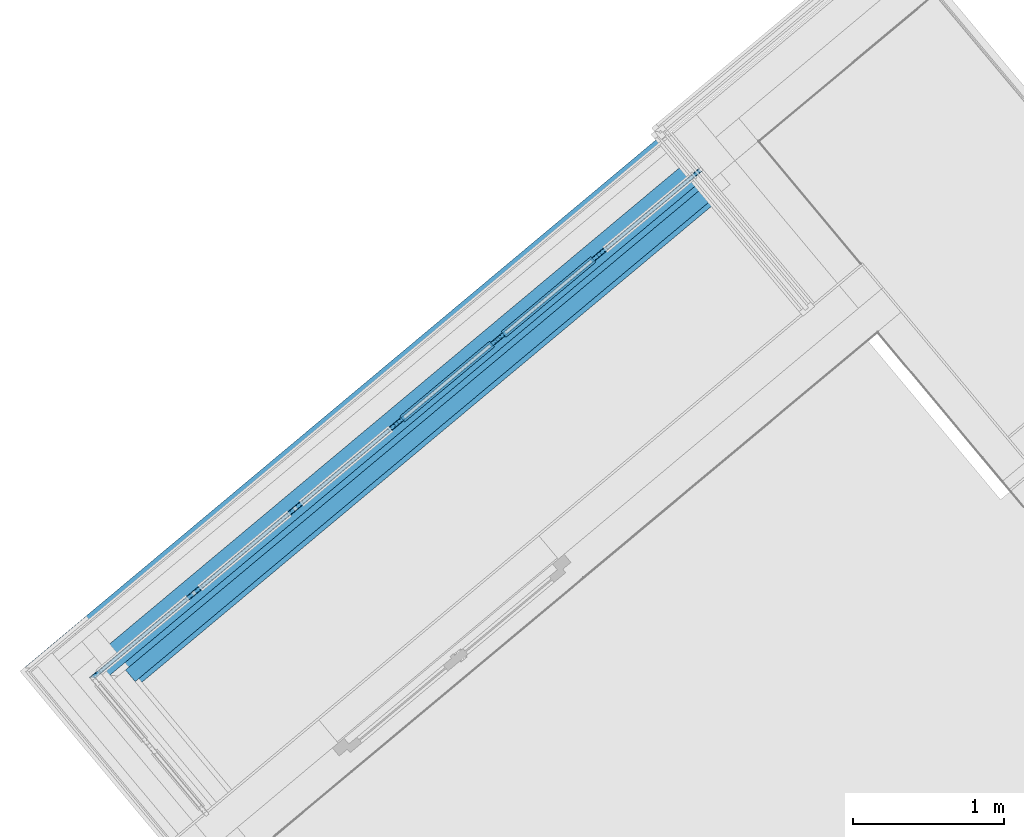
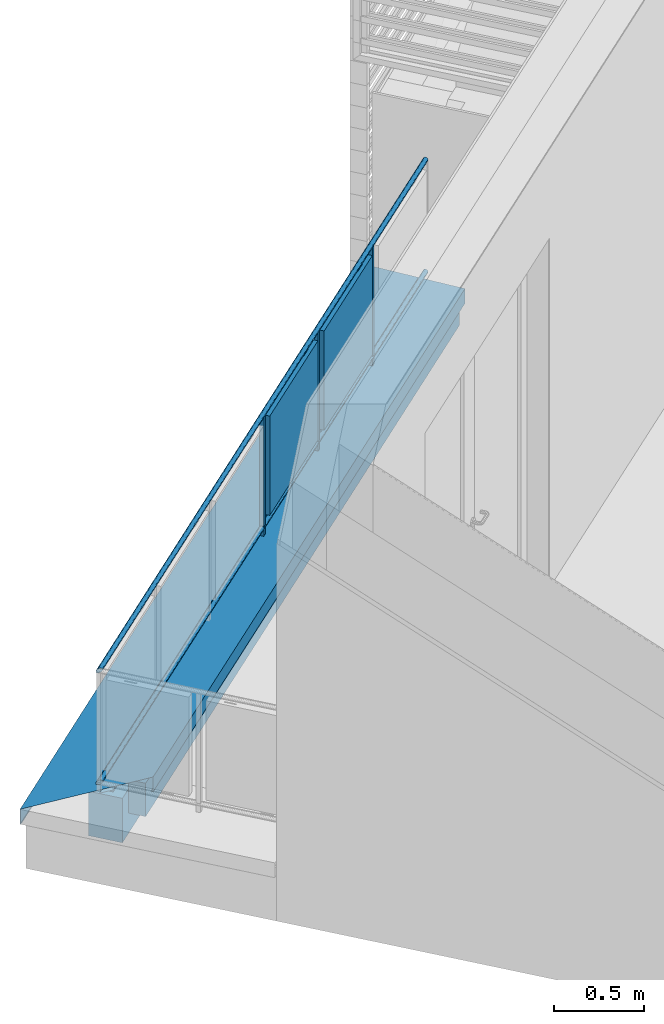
# One storey, part 19 of 47: 11 building element parts, 2 elements without a shape of their own.
"""IFC4 building model written with IfcOpenShell, lengths in metres."""

from ifc_helpers import new_model, entity, si_unit, converted_unit, derived_unit, direction, frame, origin_with_axes, place, context, subcontext, project, spatial, polygons, material, type_object, element, aggregate, save


model = new_model("IFC4")

# Units and contexts
model_context = context("Model", 3, precision=1e-05, world=origin_with_axes(), true_north=direction((0.0, 1.0)))
body_context = subcontext(model_context, "Body", "Model", "MODEL_VIEW")
ifc_project = project(units=[si_unit("LENGTHUNIT", "METRE"), si_unit("AREAUNIT", "SQUARE_METRE"), si_unit("VOLUMEUNIT", "CUBIC_METRE"), converted_unit("PLANEANGLEUNIT", "DEGREE", entity("IfcPlaneAngleMeasure", 0.0174532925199), si_unit("PLANEANGLEUNIT", "RADIAN"), dimensions=[0, 0, 0, 0, 0, 0, 0]), converted_unit("TIMEUNIT", "Year", entity("IfcTimeMeasure", 31556926.0), si_unit("TIMEUNIT", "SECOND"), dimensions=[0, 0, 1, 0, 0, 0, 0]), si_unit("MASSUNIT", "GRAM", prefix="KILO"), si_unit("THERMODYNAMICTEMPERATUREUNIT", "DEGREE_CELSIUS"), si_unit("LUMINOUSINTENSITYUNIT", "LUMEN"), si_unit("ENERGYUNIT", "JOULE", prefix="MEGA"), derived_unit("THERMALCONDUCTANCEUNIT", [(si_unit("POWERUNIT", "WATT"), 1), (si_unit("LENGTHUNIT", "METRE"), -1), (si_unit("THERMODYNAMICTEMPERATUREUNIT", "KELVIN"), -1)]), derived_unit("SPECIFICHEATCAPACITYUNIT", [(si_unit("ENERGYUNIT", "JOULE"), 1), (si_unit("MASSUNIT", "GRAM", prefix="KILO"), -1), (si_unit("THERMODYNAMICTEMPERATUREUNIT", "KELVIN"), -1)]), derived_unit("MASSDENSITYUNIT", [(si_unit("MASSUNIT", "GRAM", prefix="KILO"), 1), (si_unit("VOLUMEUNIT", "CUBIC_METRE"), -1)])], contexts=[model_context])

# Site, building, storey
site_placement = place(None, frame((-0.00153261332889, -0.00661245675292, 0.0), z_axis=(0.0, 0.0, 1.0), x_axis=(1.0, 0.0, 0.0)))
site = spatial("IfcSite", under=ifc_project, at=site_placement, Name="Site", CompositionType="ELEMENT")
building_placement = place(site_placement, origin_with_axes())
building = spatial("IfcBuilding", under=site, at=building_placement, Name="Building", CompositionType="ELEMENT")
storey_placement = place(building_placement, frame((0.0, 0.0, 8.66), z_axis=(0.0, 0.0, 1.0), x_axis=(1.0, 0.0, 0.0)))
storey = spatial("IfcBuildingStorey", under=building, at=storey_placement, Name="DG2", CompositionType="ELEMENT", Elevation=8.66)

# Wall, building element parts
wall_type = type_object("IfcWallType", Name="Bauteil - Attika Terrasse 1.DG 574 x 410", PredefinedType="NOTDEFINED")
wall_placement = place(storey_placement, frame((-8.38023068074, 18.991205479, -0.2), z_axis=(0.0, 0.0, 1.0), x_axis=(0.767365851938, 0.641209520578, 0.0)))
wall = element("IfcWall", 1, at=wall_placement, inside=storey, type_object=wall_type, Name="Wand-005", PredefinedType="NOTDEFINED")
ifc_material_1 = material(Name="Stahlbeton")
building_element_part_1_placement = place(wall_placement, origin_with_axes())
building_element_part_1 = element("IfcBuildingElementPart", 2, at=building_element_part_1_placement, material=ifc_material_1, Name="Stahlbeton", PredefinedType="NOTDEFINED", context=body_context, shape_type="Tessellation", body=[
    polygons([(0.199999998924, -1.8283543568e-09, 0.500000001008), (0.199999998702, -0.199999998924, 0.500000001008), (5.34520574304, -0.199999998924, 0.500000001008), (5.34520574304, -1.8283543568e-09, 0.500000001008), (0.199999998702, -0.199999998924, 0.498822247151), (0.199999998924, -1.8283543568e-09, 0.498822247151), (0.199999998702, -0.199999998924, 0.49100648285), (0.199999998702, -0.199999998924, 0.488695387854), (0.199999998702, -0.199999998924, 0.335), (5.34520574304, -0.199999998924, 0.335000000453), (5.34520574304, -0.199999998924, 0.2), (5.34520574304, -1.8283543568e-09, 0.2), (0.199999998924, -1.8283543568e-09, 0.2), (0.199999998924, -1.8283543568e-09, 0.335), (0.199999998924, -1.8283543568e-09, 0.488695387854), (0.199999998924, -1.8283543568e-09, 0.49100648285), (0.199999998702, -0.199999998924, 0.2)], [[[1, 2, 3, 4]], [[5, 2, 1, 6]], [[2, 5, 7, 8, 9, 10, 3]], [[11, 12, 4, 3, 10]], [[6, 1, 4, 12, 13, 14, 15, 16]], [[5, 6, 16, 7]], [[7, 16, 15, 8]], [[8, 15, 14, 9]], [[9, 17, 11, 10]], [[17, 13, 12, 11]], [[9, 14, 13, 17]]], closed=True),
])
ifc_material_2 = material(Name="Vollholz")
building_element_part_2_placement = place(wall_placement, origin_with_axes())
building_element_part_2 = element("IfcBuildingElementPart", 3, at=building_element_part_2_placement, material=ifc_material_2, Name="Vollholz", PredefinedType="NOTDEFINED", context=body_context, shape_type="Tessellation", body=[
    polygons([(0.0999999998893, -0.1, 0.575979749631), (0.16011022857, -0.160110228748, 0.573880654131), (5.34520574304, -0.160110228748, 0.573880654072), (5.34520574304, -0.1, 0.575979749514), (0.160110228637, -0.1, 0.573880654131), (0.160063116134, -0.160063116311, 0.567947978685), (0.159999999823, -0.16, 0.560000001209), (5.34520574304, -0.16, 0.560000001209), (5.34520574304, -0.1, 0.560000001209), (0.159999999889, -0.1, 0.560000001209), (0.1600631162, -0.1, 0.567947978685)], [[[1, 2, 3, 4]], [[5, 2, 1]], [[2, 6, 7, 8, 3]], [[3, 8, 9, 4]], [[5, 1, 4, 9, 10, 11]], [[2, 5, 11, 6]], [[6, 11, 10, 7]], [[7, 10, 9, 8]]], closed=True),
])
ifc_material_3 = material(Name="EPS 1")
building_element_part_3_placement = place(wall_placement, origin_with_axes())
building_element_part_3 = element("IfcBuildingElementPart", 4, at=building_element_part_3_placement, material=ifc_material_3, Name="EPS 1", PredefinedType="NOTDEFINED", context=body_context, shape_type="Tessellation", body=[
    polygons([(0.299999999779, -0.2, 0.560000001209), (0.299999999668, -0.3, 0.560000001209), (5.34520574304, -0.3, 0.560000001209), (5.34520574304, -0.2, 0.560000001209), (0.299999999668, -0.3, 0.519224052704), (0.299999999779, -0.2, 0.519224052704), (0.299999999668, -0.3, 0.511361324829), (0.299999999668, -0.3, 0.50905023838), (0.299999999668, -0.3, 0.499999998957), (0.299999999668, -0.3, 0.498822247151), (0.299999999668, -0.3, 0.49100648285), (0.299999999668, -0.3, 0.488695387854), (0.299999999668, -0.3, 0.335), (5.34520574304, -0.3, 0.335), (5.34520574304, -0.2, 0.335), (0.299999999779, -0.2, 0.335), (0.299999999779, -0.2, 0.488695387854), (0.299999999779, -0.2, 0.49100648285), (0.299999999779, -0.2, 0.498822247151), (0.299999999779, -0.2, 0.499999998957), (0.299999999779, -0.2, 0.50905023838), (0.299999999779, -0.2, 0.511361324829)], [[[1, 2, 3, 4]], [[5, 2, 1, 6]], [[2, 5, 7, 8, 9, 10, 11, 12, 13, 14, 3]], [[14, 15, 4, 3]], [[6, 1, 4, 15, 16, 17, 18, 19, 20, 21, 22]], [[5, 6, 22, 7]], [[7, 22, 21, 8]], [[8, 21, 20, 9]], [[9, 20, 19, 10]], [[10, 19, 18, 11]], [[11, 18, 17, 12]], [[12, 17, 16, 13]], [[13, 16, 15, 14]]], closed=True),
])
ifc_material_4 = material(Name="Stahl")
building_element_part_4_placement = place(wall_placement, origin_with_axes())
building_element_part_4 = element("IfcBuildingElementPart", 5, at=building_element_part_4_placement, material=ifc_material_4, Name="Stahl", PredefinedType="NOTDEFINED", context=body_context, shape_type="Tessellation", body=[
    polygons([(-0.240542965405, 0.240542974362, 0.50905023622), (-0.238231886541, 0.238231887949, 0.51136132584), (-0.238231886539, 0.240146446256, 0.511361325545), (-0.238231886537, 0.241500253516, 0.511361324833), (-0.239585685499, 0.241500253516, 0.510007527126), (5.34520574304, 0.240542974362, 0.509050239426), (5.34520574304, 0.231373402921, 0.518219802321), (-0.231373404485, 0.231373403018, 0.518219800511), (-0.231373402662, 0.233287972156, 0.518219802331), (-0.240146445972, 0.240146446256, 0.51136132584), (-0.24014644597, 0.241500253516, 0.511361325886), (-0.240151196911, 0.241500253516, 0.584015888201), (-0.240151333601, 0.241500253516, 0.586106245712), (-0.240151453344, 0.241500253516, 0.587937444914), (-0.240152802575, 0.241500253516, 0.608570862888), (-0.240152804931, 0.241500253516, 0.608602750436), (-0.202730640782, 0.241500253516, 0.608602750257), (-0.241500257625, 0.241500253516, 0.610006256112), (5.34520574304, 0.241500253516, 0.610006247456), (5.34520574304, 0.241500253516, 0.510007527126), (-0.240146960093, 0.241500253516, 0.519224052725), (-0.240149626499, 0.241500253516, 0.559999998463), (-0.240150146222, 0.241500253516, 0.567947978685), (-0.240150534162, 0.241500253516, 0.573880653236), (-0.240150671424, 0.241500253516, 0.575979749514), (5.34520574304, -0.332051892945, 0.489652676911), (5.34520574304, -0.331094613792, 0.488695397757), (5.34520574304, -0.321878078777, 0.497911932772), (5.34520574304, -0.32288233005, 0.498822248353), (5.34520574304, -0.330698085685, 0.491006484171), (5.34520574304, -0.330698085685, 0.587937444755), (5.34520574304, 0.239276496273, 0.608570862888), (5.34520574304, 0.240152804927, 0.608602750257), (5.34520574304, 0.240146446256, 0.51136132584), (5.34520574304, 0.232283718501, 0.519224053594), (5.34520574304, -0.332051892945, 0.589243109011), (-0.232283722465, 0.232283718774, 0.519224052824), (-0.240146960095, 0.240146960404, 0.519224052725), (-0.240150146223, 0.240150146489, 0.567947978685), (-0.2401496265, 0.240149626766, 0.559999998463), (-0.202730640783, 0.240152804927, 0.608602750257), (-0.240152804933, 0.240152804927, 0.608602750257), (-0.240152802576, 0.240152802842, 0.608570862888), (-0.240151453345, 0.240151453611, 0.587937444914), (-0.240151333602, 0.240151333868, 0.586106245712), (-0.240151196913, 0.240151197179, 0.584015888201), (-0.240150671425, 0.240150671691, 0.575979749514), (-0.240150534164, 0.24015053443, 0.573880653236), (-0.202730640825, 0.202730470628, 0.608602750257), (-0.201849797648, 0.201849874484, 0.608570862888), (0.332051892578, -0.332051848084, 0.589243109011), (0.332051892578, -0.332051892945, 0.489652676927), (0.331094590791, -0.331094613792, 0.488695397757), (0.33205189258, -0.330137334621, 0.489652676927), (0.332051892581, -0.328783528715, 0.491006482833), (0.330698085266, -0.328783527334, 0.491006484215), (0.323792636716, -0.321878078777, 0.497911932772), (0.322882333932, -0.32288233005, 0.498822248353), (0.330698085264, -0.330698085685, 0.491006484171), (0.332051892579, -0.330698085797, 0.49100648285), (0.332051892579, -0.330698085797, 0.498822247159), (0.332051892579, -0.330698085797, 0.499999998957), (0.332051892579, -0.330698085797, 0.50905024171), (0.332051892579, -0.330698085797, 0.511361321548), (0.332051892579, -0.330698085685, 0.519224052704), (0.332051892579, -0.330698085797, 0.559999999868), (0.332051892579, -0.330698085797, 0.567947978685), (0.332051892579, -0.330698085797, 0.573880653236), (0.332051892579, -0.330698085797, 0.575979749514), (0.332051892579, -0.330698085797, 0.584015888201), (0.332051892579, -0.330698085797, 0.586106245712), (0.33205189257, -0.330697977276, 0.587937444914), (0.332051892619, -0.294630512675, 0.589243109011), (-0.201849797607, 0.239276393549, 0.608570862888), (0.332051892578, -0.332051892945, 0.498822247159), (0.332051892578, -0.332051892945, 0.49100648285), (0.332051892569, -0.332051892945, 0.587937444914), (0.332051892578, -0.332051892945, 0.586106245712), (0.332051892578, -0.332051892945, 0.584015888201), (0.332051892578, -0.332051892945, 0.575979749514), (0.332051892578, -0.332051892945, 0.573880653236), (0.332051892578, -0.332051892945, 0.567947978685), (0.332051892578, -0.332051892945, 0.559999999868), (0.332051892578, -0.332051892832, 0.519224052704), (0.332051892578, -0.332051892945, 0.511361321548), (0.332051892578, -0.332051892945, 0.50905024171), (0.332051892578, -0.332051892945, 0.499999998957)], [[[1, 2, 3, 4, 5]], [[2, 1, 6, 7, 8]], [[2, 8, 9, 3]], [[10, 11, 4, 3]], [[12, 13, 14, 15, 16, 17, 18, 19, 20, 5, 4, 11, 21, 22, 23, 24, 25]], [[1, 5, 20, 6]], [[26, 27, 28, 29, 30, 31, 32, 33, 34, 35, 7, 6, 20, 19, 36]], [[37, 8, 7, 35]], [[37, 9, 8]], [[9, 37, 35, 34, 3]], [[10, 38, 21, 11]], [[39, 40, 38, 10, 3, 34, 33, 41, 42, 43, 44, 45, 46, 47, 48]], [[12, 46, 45, 13]], [[44, 14, 13, 45]], [[14, 44, 43, 15]], [[15, 43, 42, 16]], [[16, 42, 41, 17]], [[41, 49, 18, 17]], [[50, 51, 36, 19, 18, 49]], [[38, 40, 22, 21]], [[40, 39, 23, 22]], [[39, 48, 24, 23]], [[48, 47, 25, 24]], [[46, 12, 25, 47]], [[52, 53, 27, 26]], [[54, 55, 56, 57, 28, 27, 53]], [[57, 58, 29, 28]], [[59, 60, 30, 29, 58]], [[60, 61, 62, 63, 64, 65, 66, 67, 68, 69, 70, 71, 72, 31, 30]], [[73, 74, 32, 31, 72]], [[74, 41, 33, 32]], [[75, 76, 52, 26, 36, 51, 77, 78, 79, 80, 81, 82, 83, 84, 85, 86, 87]], [[49, 41, 74, 50]], [[74, 73, 51, 50]], [[53, 52, 54]], [[76, 60, 55, 54, 52]], [[60, 59, 56, 55]], [[58, 57, 56, 59]], [[60, 76, 75, 61]], [[61, 75, 87, 62]], [[87, 86, 63, 62]], [[86, 85, 64, 63]], [[85, 84, 65, 64]], [[84, 83, 66, 65]], [[83, 82, 67, 66]], [[82, 81, 68, 67]], [[81, 80, 69, 68]], [[80, 79, 70, 69]], [[79, 78, 71, 70]], [[78, 77, 72, 71]], [[77, 51, 73, 72]]], closed=True),
])
aggregate(wall, [building_element_part_1, building_element_part_2, building_element_part_3, building_element_part_4])

# Railing, building element parts
railing_type = type_object("IfcRailingType", Name="Geländerart", PredefinedType="NOTDEFINED")
railing_placement = place(storey_placement, frame((-7.40951182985, 18.1414107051, 0.38), z_axis=(0.0, 0.0, 1.0), x_axis=(1.0, 0.0, 0.0)))
railing = element("IfcRailing", 6, at=railing_placement, inside=storey, type_object=railing_type, Name="Geländer - 001", PredefinedType="NOTDEFINED")
ifc_material_5 = material(Name="Aluminium")
building_element_part_5_placement = place(railing_placement, origin_with_axes())
building_element_part_5 = element("IfcBuildingElementPart", 7, at=building_element_part_5_placement, material=ifc_material_5, Name="Aluminium", PredefinedType="NOTDEFINED", context=body_context, shape_type="Tessellation", body=[
    polygons([(-0.850989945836, 0.83907148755, 0.825), (-0.850668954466, 0.839042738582, 0.827604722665), (3.18565834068, 4.2117907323, 0.827604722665), (3.18551221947, 4.21196560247, 0.825), (-0.850668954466, 0.839042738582, 0.822395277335), (-0.849715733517, 0.838957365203, 0.81986969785), (-0.848159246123, 0.838817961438, 0.8175), (-0.846046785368, 0.838628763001, 0.815358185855), (-0.843442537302, 0.838395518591, 0.813509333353), (-0.840425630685, 0.83812531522, 0.812009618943), (-0.837087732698, 0.837826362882, 0.810904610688), (-0.833530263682, 0.837507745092, 0.810227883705), (-0.829861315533, 0.837179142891, 0.81), (-0.826192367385, 0.836850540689, 0.810227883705), (-0.822634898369, 0.836531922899, 0.810904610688), (-0.819297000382, 0.836232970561, 0.812009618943), (-0.816280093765, 0.835962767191, 0.813509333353), (-0.813675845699, 0.83572952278, 0.815358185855), (-0.811563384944, 0.835540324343, 0.8175), (-0.81000689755, 0.835400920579, 0.81986969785), (-0.8090536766, 0.835315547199, 0.822395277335), (-0.80873268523, 0.835286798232, 0.825), (-0.8090536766, 0.835315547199, 0.827604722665), (-0.81000689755, 0.835400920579, 0.83013030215), (-0.811563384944, 0.835540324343, 0.8325), (-0.813675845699, 0.83572952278, 0.834641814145), (-0.816280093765, 0.835962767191, 0.836490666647), (-0.819297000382, 0.836232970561, 0.837990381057), (-0.822634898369, 0.836531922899, 0.839095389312), (-0.826192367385, 0.836850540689, 0.839772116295), (-0.829861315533, 0.837179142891, 0.84), (-0.833530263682, 0.837507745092, 0.839772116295), (-0.837087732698, 0.837826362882, 0.839095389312), (-0.840425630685, 0.83812531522, 0.837990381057), (-0.843442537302, 0.838395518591, 0.836490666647), (-0.846046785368, 0.838628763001, 0.834641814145), (-0.848159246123, 0.838817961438, 0.8325), (-0.849715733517, 0.838957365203, 0.83013030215), (3.18609226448, 4.21127143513, 0.83013030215), (3.18680080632, 4.21042348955, 0.8325), (3.18776243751, 4.20927265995, 0.834641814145), (3.18894793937, 4.20785391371, 0.836490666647), (3.19032129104, 4.20621035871, 0.837990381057), (3.19184076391, 4.20439193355, 0.839095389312), (3.19346018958, 4.20245389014, 0.839772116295), (3.1951303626, 4.20045511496, 0.84), (3.19680053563, 4.19845633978, 0.839772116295), (3.1984199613, 4.19651829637, 0.839095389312), (3.19993943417, 4.1946998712, 0.837990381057), (3.20131278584, 4.19305631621, 0.836490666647), (3.2024982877, 4.19163756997, 0.834641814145), (3.20345991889, 4.19048674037, 0.8325), (3.20416846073, 4.18963879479, 0.83013030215), (3.20460238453, 4.18911949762, 0.827604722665), (3.20474850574, 4.18894462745, 0.825), (3.20460238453, 4.18911949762, 0.822395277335), (3.20416846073, 4.18963879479, 0.81986969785), (3.20345991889, 4.19048674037, 0.8175), (3.2024982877, 4.19163756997, 0.815358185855), (3.20131278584, 4.19305631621, 0.813509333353), (3.19993943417, 4.1946998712, 0.812009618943), (3.1984199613, 4.19651829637, 0.810904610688), (3.19680053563, 4.19845633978, 0.810227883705), (3.1951303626, 4.20045511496, 0.81), (3.19346018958, 4.20245389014, 0.810227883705), (3.19184076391, 4.20439193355, 0.810904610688), (3.19032129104, 4.20621035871, 0.812009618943), (3.18894793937, 4.20785391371, 0.813509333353), (3.18776243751, 4.20927265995, 0.815358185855), (3.18680080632, 4.21042348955, 0.8175), (3.18609226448, 4.21127143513, 0.81986969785), (3.18565834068, 4.2117907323, 0.822395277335)], [[[1, 2, 3, 4]], [[1, 5, 6, 7, 8, 9, 10, 11, 12, 13, 14, 15, 16, 17, 18, 19, 20, 21, 22, 23, 24, 25, 26, 27, 28, 29, 30, 31, 32, 33, 34, 35, 36, 37, 38, 2]], [[2, 38, 39, 3]], [[4, 3, 39, 40, 41, 42, 43, 44, 45, 46, 47, 48, 49, 50, 51, 52, 53, 54, 55, 56, 57, 58, 59, 60, 61, 62, 63, 64, 65, 66, 67, 68, 69, 70, 71, 72]], [[5, 1, 4, 72]], [[6, 5, 72, 71]], [[7, 6, 71, 70]], [[8, 7, 70, 69]], [[9, 8, 69, 68]], [[10, 9, 68, 67]], [[11, 10, 67, 66]], [[12, 11, 66, 65]], [[13, 12, 65, 64]], [[14, 13, 64, 63]], [[15, 14, 63, 62]], [[16, 15, 62, 61]], [[17, 16, 61, 60]], [[18, 17, 60, 59]], [[19, 18, 59, 58]], [[20, 19, 58, 57]], [[21, 20, 57, 56]], [[22, 21, 56, 55]], [[23, 22, 55, 54]], [[24, 23, 54, 53]], [[25, 24, 53, 52]], [[26, 25, 52, 51]], [[27, 26, 51, 50]], [[28, 27, 50, 49]], [[29, 28, 49, 48]], [[30, 29, 48, 47]], [[31, 30, 47, 46]], [[32, 31, 46, 45]], [[33, 32, 45, 44]], [[34, 33, 44, 43]], [[35, 34, 43, 42]], [[36, 35, 42, 41]], [[37, 36, 41, 40]], [[38, 37, 40, 39]]], closed=True),
])
building_element_part_6_placement = place(railing_placement, origin_with_axes())
building_element_part_6 = element("IfcBuildingElementPart", 8, at=building_element_part_6_placement, material=ifc_material_5, Name="Aluminium", PredefinedType="NOTDEFINED", context=body_context, shape_type="Tessellation", body=[
    polygons([(-0.850989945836, 0.83907148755, 0.07), (-0.850668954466, 0.839042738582, 0.072604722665), (3.18565834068, 4.2117907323, 0.072604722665), (3.18551221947, 4.21196560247, 0.07), (-0.850668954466, 0.839042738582, 0.067395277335), (-0.849715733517, 0.838957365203, 0.0648696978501), (-0.848159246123, 0.838817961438, 0.0625), (-0.846046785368, 0.838628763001, 0.0603581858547), (-0.843442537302, 0.838395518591, 0.0585093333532), (-0.840425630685, 0.83812531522, 0.0570096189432), (-0.837087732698, 0.837826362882, 0.0559046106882), (-0.833530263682, 0.837507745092, 0.0552278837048), (-0.829861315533, 0.837179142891, 0.055), (-0.826192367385, 0.836850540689, 0.0552278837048), (-0.822634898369, 0.836531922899, 0.0559046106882), (-0.819297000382, 0.836232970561, 0.0570096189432), (-0.816280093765, 0.835962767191, 0.0585093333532), (-0.813675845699, 0.83572952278, 0.0603581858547), (-0.811563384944, 0.835540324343, 0.0625), (-0.81000689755, 0.835400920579, 0.0648696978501), (-0.8090536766, 0.835315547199, 0.067395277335), (-0.80873268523, 0.835286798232, 0.07), (-0.8090536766, 0.835315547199, 0.072604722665), (-0.81000689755, 0.835400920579, 0.0751303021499), (-0.811563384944, 0.835540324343, 0.0775), (-0.813675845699, 0.83572952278, 0.0796418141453), (-0.816280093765, 0.835962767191, 0.0814906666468), (-0.819297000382, 0.836232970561, 0.0829903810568), (-0.822634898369, 0.836531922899, 0.0840953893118), (-0.826192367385, 0.836850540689, 0.0847721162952), (-0.829861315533, 0.837179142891, 0.085), (-0.833530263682, 0.837507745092, 0.0847721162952), (-0.837087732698, 0.837826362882, 0.0840953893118), (-0.840425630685, 0.83812531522, 0.0829903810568), (-0.843442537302, 0.838395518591, 0.0814906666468), (-0.846046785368, 0.838628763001, 0.0796418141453), (-0.848159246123, 0.838817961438, 0.0775), (-0.849715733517, 0.838957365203, 0.0751303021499), (3.18609226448, 4.21127143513, 0.0751303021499), (3.18680080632, 4.21042348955, 0.0775), (3.18776243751, 4.20927265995, 0.0796418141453), (3.18894793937, 4.20785391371, 0.0814906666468), (3.19032129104, 4.20621035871, 0.0829903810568), (3.19184076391, 4.20439193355, 0.0840953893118), (3.19346018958, 4.20245389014, 0.0847721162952), (3.1951303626, 4.20045511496, 0.085), (3.19680053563, 4.19845633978, 0.0847721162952), (3.1984199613, 4.19651829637, 0.0840953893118), (3.19993943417, 4.1946998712, 0.0829903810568), (3.20131278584, 4.19305631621, 0.0814906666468), (3.2024982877, 4.19163756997, 0.0796418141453), (3.20345991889, 4.19048674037, 0.0775), (3.20416846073, 4.18963879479, 0.0751303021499), (3.20460238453, 4.18911949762, 0.072604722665), (3.20474850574, 4.18894462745, 0.07), (3.20460238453, 4.18911949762, 0.067395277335), (3.20416846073, 4.18963879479, 0.0648696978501), (3.20345991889, 4.19048674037, 0.0625), (3.2024982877, 4.19163756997, 0.0603581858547), (3.20131278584, 4.19305631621, 0.0585093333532), (3.19993943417, 4.1946998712, 0.0570096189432), (3.1984199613, 4.19651829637, 0.0559046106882), (3.19680053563, 4.19845633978, 0.0552278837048), (3.1951303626, 4.20045511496, 0.055), (3.19346018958, 4.20245389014, 0.0552278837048), (3.19184076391, 4.20439193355, 0.0559046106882), (3.19032129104, 4.20621035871, 0.0570096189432), (3.18894793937, 4.20785391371, 0.0585093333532), (3.18776243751, 4.20927265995, 0.0603581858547), (3.18680080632, 4.21042348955, 0.0625), (3.18609226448, 4.21127143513, 0.0648696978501), (3.18565834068, 4.2117907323, 0.067395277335)], [[[1, 2, 3, 4]], [[1, 5, 6, 7, 8, 9, 10, 11, 12, 13, 14, 15, 16, 17, 18, 19, 20, 21, 22, 23, 24, 25, 26, 27, 28, 29, 30, 31, 32, 33, 34, 35, 36, 37, 38, 2]], [[2, 38, 39, 3]], [[4, 3, 39, 40, 41, 42, 43, 44, 45, 46, 47, 48, 49, 50, 51, 52, 53, 54, 55, 56, 57, 58, 59, 60, 61, 62, 63, 64, 65, 66, 67, 68, 69, 70, 71, 72]], [[5, 1, 4, 72]], [[6, 5, 72, 71]], [[7, 6, 71, 70]], [[8, 7, 70, 69]], [[9, 8, 69, 68]], [[10, 9, 68, 67]], [[11, 10, 67, 66]], [[12, 11, 66, 65]], [[13, 12, 65, 64]], [[14, 13, 64, 63]], [[15, 14, 63, 62]], [[16, 15, 62, 61]], [[17, 16, 61, 60]], [[18, 17, 60, 59]], [[19, 18, 59, 58]], [[20, 19, 58, 57]], [[21, 20, 57, 56]], [[22, 21, 56, 55]], [[23, 22, 55, 54]], [[24, 23, 54, 53]], [[25, 24, 53, 52]], [[26, 25, 52, 51]], [[27, 26, 51, 50]], [[28, 27, 50, 49]], [[29, 28, 49, 48]], [[30, 29, 48, 47]], [[31, 30, 47, 46]], [[32, 31, 46, 45]], [[33, 32, 45, 44]], [[34, 33, 44, 43]], [[35, 34, 43, 42]], [[36, 35, 42, 41]], [[37, 36, 41, 40]], [[38, 37, 40, 39]]], closed=True),
])
building_element_part_7_placement = place(railing_placement, origin_with_axes())
building_element_part_7 = element("IfcBuildingElementPart", 9, at=building_element_part_7_placement, material=ifc_material_5, Name="Aluminium", PredefinedType="NOTDEFINED", context=body_context, shape_type="Tessellation", body=[
    polygons([(1.20024171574, 2.51724017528, -0.3), (1.18421147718, 2.53642432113, -0.3), (1.18421147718, 2.53642432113, 0.82), (1.20024171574, 2.51724017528, 0.82), (1.18105756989, 2.50120993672, -0.3), (1.16502733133, 2.52039408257, -0.3), (1.16502733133, 2.52039408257, 0.82), (1.18105756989, 2.50120993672, 0.82)], [[[1, 2, 3, 4]], [[1, 5, 6, 2]], [[2, 6, 7, 3]], [[4, 3, 7, 8]], [[5, 1, 4, 8]], [[6, 5, 8, 7]]], closed=True),
])
building_element_part_8_placement = place(railing_placement, origin_with_axes())
building_element_part_8 = element("IfcBuildingElementPart", 10, at=building_element_part_8_placement, material=ifc_material_5, Name="Aluminium", PredefinedType="NOTDEFINED", context=body_context, shape_type="Tessellation", body=[
    polygons([(1.29613637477, 2.61691697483, 0.12), (1.34985198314, 2.66180164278, 0.12), (1.34985198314, 2.66180164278, 0.095), (1.29613637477, 2.61691697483, 0.095), (1.29934242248, 2.61308014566, 0.12), (1.35305803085, 2.65796481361, 0.12), (1.35305803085, 2.65796481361, 0.095), (1.29934242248, 2.61308014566, 0.095)], [[[1, 2, 3, 4]], [[5, 6, 2, 1]], [[2, 6, 7, 3]], [[4, 3, 7, 8]], [[1, 4, 8, 5]], [[8, 7, 6, 5]]], closed=True),
    polygons([(1.73675857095, 2.98510010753, 0.79), (1.68304296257, 2.94021543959, 0.79), (1.68304296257, 2.94021543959, 0.795), (1.73675857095, 2.98510010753, 0.795), (1.73996461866, 2.98126327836, 0.79), (1.68624901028, 2.93637861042, 0.79), (1.68624901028, 2.93637861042, 0.795), (1.73996461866, 2.98126327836, 0.795)], [[[1, 2, 3, 4]], [[5, 6, 2, 1]], [[2, 6, 7, 3]], [[4, 3, 7, 8]], [[1, 4, 8, 5]], [[8, 7, 6, 5]]], closed=True),
    polygons([(1.23703305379, 2.53169346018, 0.12), (1.20497257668, 2.57006175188, 0.12), (1.79906793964, 3.06648679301, 0.12), (1.83112841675, 3.02811850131, 0.12), (1.25238037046, 2.54451765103, 0.14), (1.24276222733, 2.55602813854, 0.14), (1.23892539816, 2.55282209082, 0.135), (1.22610120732, 2.5681694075, 0.135), (1.22993803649, 2.57137545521, 0.14), (1.22031989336, 2.58288594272, 0.14), (1.78372062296, 3.05366260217, 0.14), (1.78372062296, 3.05366260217, 0.77), (1.22031989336, 2.58288594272, 0.77), (1.22031989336, 2.58288594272, 0.14), (1.20497257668, 2.57006175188, 0.12), (1.20497257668, 2.57006175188, 0.79), (1.79906793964, 3.06648679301, 0.79), (1.83112841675, 3.02811850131, 0.79), (1.23703305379, 2.53169346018, 0.79), (1.23703305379, 2.53169346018, 0.12), (1.25238037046, 2.54451765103, 0.14), (1.25238037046, 2.54451765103, 0.77), (1.81578110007, 3.01529431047, 0.77), (1.81578110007, 3.01529431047, 0.14), (1.80616295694, 3.02680479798, 0.14), (1.80616295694, 3.02680479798, 0.77), (1.24276222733, 2.55602813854, 0.77), (1.24276222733, 2.55602813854, 0.14), (1.23892539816, 2.55282209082, 0.135), (1.23892539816, 2.55282209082, 0.775), (1.80999978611, 3.03001084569, 0.775), (1.80999978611, 3.03001084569, 0.135), (1.79717559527, 3.04535816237, 0.135), (1.79717559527, 3.04535816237, 0.775), (1.22610120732, 2.5681694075, 0.775), (1.22610120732, 2.5681694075, 0.135), (1.22993803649, 2.57137545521, 0.14), (1.22993803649, 2.57137545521, 0.77), (1.7933387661, 3.04215211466, 0.77), (1.7933387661, 3.04215211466, 0.14)], [[[1, 2, 3, 4]], [[1, 5, 6, 7, 8, 9, 10, 2]], [[2, 10, 11, 12, 13, 14, 15, 16, 17, 3]], [[4, 3, 17, 18]], [[5, 1, 4, 18, 19, 20, 21, 22, 23, 24]], [[6, 5, 24, 25]], [[7, 6, 25, 26, 27, 28, 29, 30, 31, 32]], [[8, 7, 32, 33]], [[9, 8, 33, 34, 35, 36, 37, 38, 39, 40]], [[10, 9, 40, 11]], [[11, 40, 39, 12]], [[12, 39, 38, 13]], [[13, 38, 37, 14]], [[20, 15, 14, 37, 36, 29, 28, 21]], [[19, 16, 15, 20]], [[18, 17, 16, 19]], [[27, 22, 21, 28]], [[26, 23, 22, 27]], [[25, 24, 23, 26]], [[35, 30, 29, 36]], [[34, 31, 30, 35]], [[33, 32, 31, 34]]], closed=True),
])
building_element_part_9_placement = place(railing_placement, origin_with_axes())
building_element_part_9 = element("IfcBuildingElementPart", 11, at=building_element_part_9_placement, material=ifc_material_5, Name="Aluminium", PredefinedType="NOTDEFINED", context=body_context, shape_type="Tessellation", body=[
    polygons([(1.87107366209, 3.07778617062, -0.3), (1.85504342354, 3.09697031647, -0.3), (1.85504342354, 3.09697031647, 0.82), (1.87107366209, 3.07778617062, 0.82), (1.85188951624, 3.06175593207, -0.3), (1.83585927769, 3.08094007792, -0.3), (1.83585927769, 3.08094007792, 0.82), (1.85188951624, 3.06175593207, 0.82)], [[[1, 2, 3, 4]], [[1, 5, 6, 2]], [[2, 6, 7, 3]], [[4, 3, 7, 8]], [[5, 1, 4, 8]], [[6, 5, 8, 7]]], closed=True),
])
building_element_part_10_placement = place(railing_placement, origin_with_axes())
building_element_part_10 = element("IfcBuildingElementPart", 12, at=building_element_part_10_placement, material=ifc_material_5, Name="Aluminium", PredefinedType="NOTDEFINED", context=body_context, shape_type="Tessellation", body=[
    polygons([(1.96696832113, 3.17746297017, 0.12), (2.0206839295, 3.22234763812, 0.12), (2.0206839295, 3.22234763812, 0.095), (1.96696832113, 3.17746297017, 0.095), (1.97017436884, 3.173626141, 0.12), (2.02388997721, 3.21851080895, 0.12), (2.02388997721, 3.21851080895, 0.095), (1.97017436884, 3.173626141, 0.095)], [[[1, 2, 3, 4]], [[5, 6, 2, 1]], [[2, 6, 7, 3]], [[4, 3, 7, 8]], [[1, 4, 8, 5]], [[8, 7, 6, 5]]], closed=True),
    polygons([(2.4075905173, 3.54564610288, 0.79), (2.35387490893, 3.50076143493, 0.79), (2.35387490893, 3.50076143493, 0.795), (2.4075905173, 3.54564610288, 0.795), (2.41079656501, 3.54180927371, 0.79), (2.35708095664, 3.49692460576, 0.79), (2.35708095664, 3.49692460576, 0.795), (2.41079656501, 3.54180927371, 0.795)], [[[1, 2, 3, 4]], [[5, 6, 2, 1]], [[2, 6, 7, 3]], [[4, 3, 7, 8]], [[1, 4, 8, 5]], [[8, 7, 6, 5]]], closed=True),
    polygons([(1.90786500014, 3.09223945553, 0.12), (1.87580452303, 3.13060774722, 0.12), (2.469899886, 3.62703278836, 0.12), (2.50196036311, 3.58866449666, 0.12), (1.92321231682, 3.10506364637, 0.14), (1.91359417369, 3.11657413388, 0.14), (1.90975734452, 3.11336808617, 0.135), (1.89693315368, 3.12871540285, 0.135), (1.90076998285, 3.13192145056, 0.14), (1.89115183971, 3.14343193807, 0.14), (2.45455256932, 3.61420859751, 0.14), (2.45455256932, 3.61420859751, 0.77), (1.89115183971, 3.14343193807, 0.77), (1.89115183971, 3.14343193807, 0.14), (1.87580452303, 3.13060774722, 0.12), (1.87580452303, 3.13060774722, 0.79), (2.469899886, 3.62703278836, 0.79), (2.50196036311, 3.58866449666, 0.79), (1.90786500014, 3.09223945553, 0.79), (1.90786500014, 3.09223945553, 0.12), (1.92321231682, 3.10506364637, 0.14), (1.92321231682, 3.10506364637, 0.77), (2.48661304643, 3.57584030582, 0.77), (2.48661304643, 3.57584030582, 0.14), (2.47699490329, 3.58735079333, 0.14), (2.47699490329, 3.58735079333, 0.77), (1.91359417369, 3.11657413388, 0.77), (1.91359417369, 3.11657413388, 0.14), (1.90975734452, 3.11336808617, 0.135), (1.90975734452, 3.11336808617, 0.775), (2.48083173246, 3.59055684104, 0.775), (2.48083173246, 3.59055684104, 0.135), (2.46800754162, 3.60590415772, 0.135), (2.46800754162, 3.60590415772, 0.775), (1.89693315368, 3.12871540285, 0.775), (1.89693315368, 3.12871540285, 0.135), (1.90076998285, 3.13192145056, 0.14), (1.90076998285, 3.13192145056, 0.77), (2.46417071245, 3.60269811, 0.77), (2.46417071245, 3.60269811, 0.14)], [[[1, 2, 3, 4]], [[1, 5, 6, 7, 8, 9, 10, 2]], [[2, 10, 11, 12, 13, 14, 15, 16, 17, 3]], [[4, 3, 17, 18]], [[5, 1, 4, 18, 19, 20, 21, 22, 23, 24]], [[6, 5, 24, 25]], [[7, 6, 25, 26, 27, 28, 29, 30, 31, 32]], [[8, 7, 32, 33]], [[9, 8, 33, 34, 35, 36, 37, 38, 39, 40]], [[10, 9, 40, 11]], [[11, 40, 39, 12]], [[12, 39, 38, 13]], [[13, 38, 37, 14]], [[20, 15, 14, 37, 36, 29, 28, 21]], [[19, 16, 15, 20]], [[18, 17, 16, 19]], [[27, 22, 21, 28]], [[26, 23, 22, 27]], [[25, 24, 23, 26]], [[35, 30, 29, 36]], [[34, 31, 30, 35]], [[33, 32, 31, 34]]], closed=True),
])
building_element_part_11_placement = place(railing_placement, origin_with_axes())
building_element_part_11 = element("IfcBuildingElementPart", 13, at=building_element_part_11_placement, material=ifc_material_5, Name="Aluminium", PredefinedType="NOTDEFINED", context=body_context, shape_type="Tessellation", body=[
    polygons([(2.54190560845, 3.63833216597, -0.3), (2.5258753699, 3.65751631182, -0.3), (2.5258753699, 3.65751631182, 0.82), (2.54190560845, 3.63833216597, 0.82), (2.5227214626, 3.62230192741, -0.3), (2.50669122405, 3.64148607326, -0.3), (2.50669122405, 3.64148607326, 0.82), (2.5227214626, 3.62230192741, 0.82)], [[[1, 2, 3, 4]], [[1, 5, 6, 2]], [[2, 6, 7, 3]], [[4, 3, 7, 8]], [[5, 1, 4, 8]], [[6, 5, 8, 7]]], closed=True),
])
aggregate(railing, [building_element_part_5, building_element_part_6, building_element_part_7, building_element_part_8, building_element_part_9, building_element_part_10, building_element_part_11])

save(model, "model.ifc")
